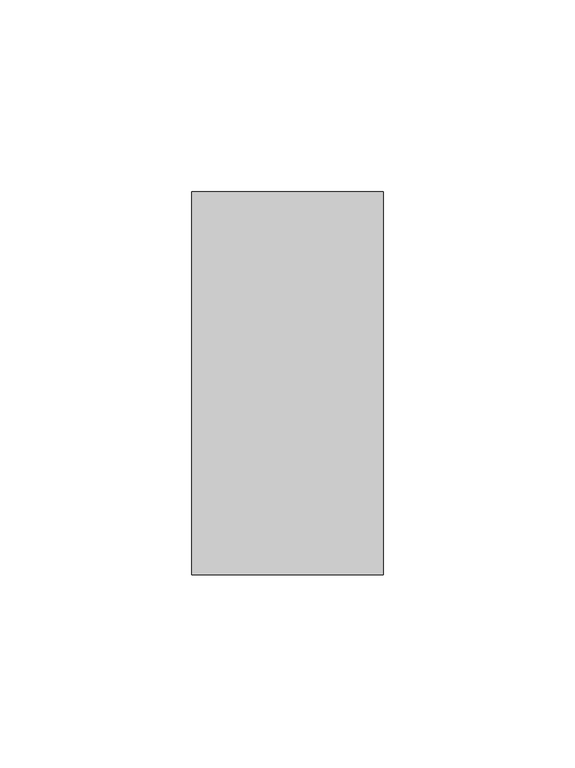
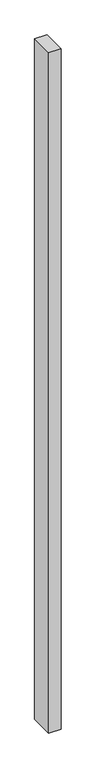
"""IFC4 building model written with IfcOpenShell, lengths in millimetres: member geometry, Прямоугольный импост : 50х100."""

from ifc_helpers import new_model, si_unit, frame, origin, place, context, project, spatial, polyline, outline, extrude, source, transform, mapped, element, save


def member_0bcd7f07(model_context):
    return source(origin(), model_context, "Body", "SweptSolid", [
        extrude(outline(polyline([(0.0, 50.0), (0.0, -50.0), (-50.0, -50.0), (-50.0, 50.0), (0.0, 50.0)])), frame((0.0, 0.0, -2950.0), z_axis=(0.0, 0.0, 1.0), x_axis=(1.0, 0.0, 0.0)), (0.0, 0.0, 1.0), 2950.0),
    ])


if __name__ == "__main__":
    model = new_model("IFC4")
    model_context = context("Model", 3, world=origin())
    ifc_project = project(units=[si_unit("LENGTHUNIT", "METRE", prefix="MILLI")], contexts=[model_context])
    site = spatial("IfcSite", under=ifc_project)
    building = spatial("IfcBuilding", under=site)
    placement = place(None, origin())
    member_shape = member_0bcd7f07(model_context)
    element("IfcMember", 1, ObjectType="Прямоугольный импост : 50х100", at=placement, inside=building, context=model_context, shape_type="MappedRepresentation", body=[
        mapped(member_shape, transform((0.0, 0.0, 0.0), x_axis=(1.0, 0.0, 0.0), y_axis=(0.0, 1.0, 0.0), z_axis=(0.0, 0.0, 1.0))),
    ])
    save(model, "model.ifc")
